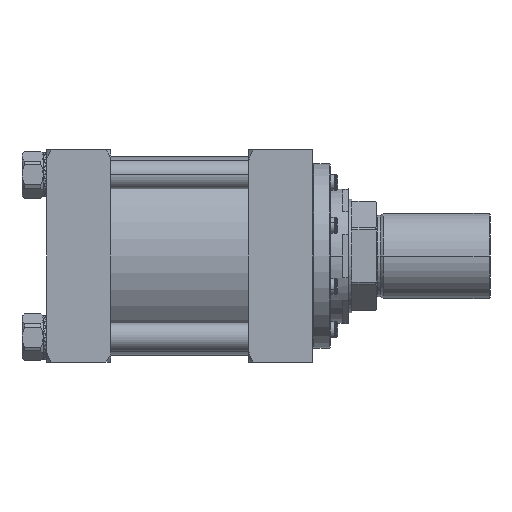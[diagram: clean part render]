
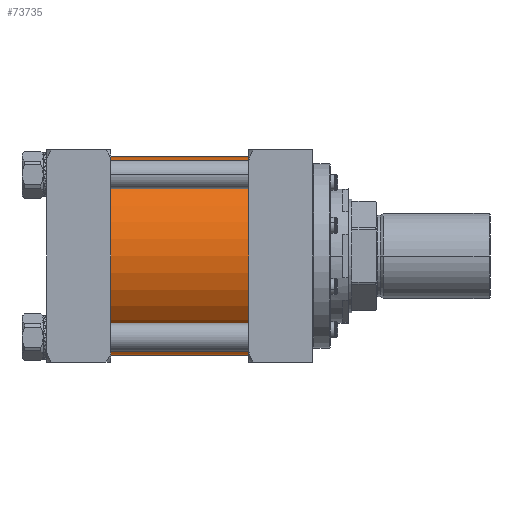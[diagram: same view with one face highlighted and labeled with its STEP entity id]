
A CAD part, front view. The second image highlights one B-rep face of the part: STEP entity #73735.
In plain terms, the highlighted cylindrical face has radius 88.9 mm (diameter 177.8 mm), a partial arc.
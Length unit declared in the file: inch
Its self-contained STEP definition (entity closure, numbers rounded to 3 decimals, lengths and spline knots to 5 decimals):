
#511 = AXIS2_PLACEMENT_3D ( 'NONE', #65451, #26432, #33102 ) ;
#1628 = AXIS2_PLACEMENT_3D ( 'NONE', #71839, #34941, #3389 ) ;
#3389 = DIRECTION ( 'NONE',  ( 0., 1., 0. ) ) ;
#4115 = CARTESIAN_POINT ( 'NONE',  ( -9.625, 0., 3.5 ) ) ;
#4490 = EDGE_LOOP ( 'NONE', ( #22146, #79472, #47394, #20850 ) ) ;
#6949 = CYLINDRICAL_SURFACE ( 'NONE', #511, 3.5 ) ;
#8220 = CIRCLE ( 'NONE', #1628, 3.5 ) ;
#11575 = AXIS2_PLACEMENT_3D ( 'NONE', #78219, #40114, #60746 ) ;
#14469 = VERTEX_POINT ( 'NONE', #62896 ) ;
#16992 = EDGE_CURVE ( 'NONE', #34417, #68497, #39198, .T. ) ;
#18238 = DIRECTION ( 'NONE',  ( 1., 0., 0. ) ) ;
#20850 = ORIENTED_EDGE ( 'NONE', *, *, #46636, .F. ) ;
#22146 = ORIENTED_EDGE ( 'NONE', *, *, #32626, .F. ) ;
#26432 = DIRECTION ( 'NONE',  ( 1., 0., 0. ) ) ;
#32626 = EDGE_CURVE ( 'NONE', #80930, #14469, #49326, .T. ) ;
#33102 = DIRECTION ( 'NONE',  ( 0., 0., -1. ) ) ;
#34417 = VERTEX_POINT ( 'NONE', #35814 ) ;
#34941 = DIRECTION ( 'NONE',  ( 1., 0., 0. ) ) ;
#35814 = CARTESIAN_POINT ( 'NONE',  ( -9.625, 0., -3.5 ) ) ;
#39198 = LINE ( 'NONE', #64471, #53535 ) ;
#40114 = DIRECTION ( 'NONE',  ( 1., 0., 0. ) ) ;
#46636 = EDGE_CURVE ( 'NONE', #14469, #68497, #8220, .T. ) ;
#47394 = ORIENTED_EDGE ( 'NONE', *, *, #16992, .T. ) ;
#47535 = VECTOR ( 'NONE', #18238, 39.37008 ) ;
#49326 = LINE ( 'NONE', #75073, #47535 ) ;
#53535 = VECTOR ( 'NONE', #71107, 39.37008 ) ;
#55328 = CIRCLE ( 'NONE', #11575, 3.5 ) ;
#57960 = FACE_OUTER_BOUND ( 'NONE', #4490, .T. ) ;
#58343 = EDGE_CURVE ( 'NONE', #80930, #34417, #55328, .T. ) ;
#60746 = DIRECTION ( 'NONE',  ( 0., 1., 0. ) ) ;
#62896 = CARTESIAN_POINT ( 'NONE',  ( -4.25, 0., 3.5 ) ) ;
#64471 = CARTESIAN_POINT ( 'NONE',  ( -9.625, 0., -3.5 ) ) ;
#65451 = CARTESIAN_POINT ( 'NONE',  ( -9.625, 0., 0. ) ) ;
#68497 = VERTEX_POINT ( 'NONE', #79659 ) ;
#71107 = DIRECTION ( 'NONE',  ( 1., 0., 0. ) ) ;
#71839 = CARTESIAN_POINT ( 'NONE',  ( -4.25, 0., 0. ) ) ;
#73735 = ADVANCED_FACE ( 'NONE', ( #57960 ), #6949, .T. ) ;
#75073 = CARTESIAN_POINT ( 'NONE',  ( -9.625, 0., 3.5 ) ) ;
#78219 = CARTESIAN_POINT ( 'NONE',  ( -9.625, 0., 0. ) ) ;
#79472 = ORIENTED_EDGE ( 'NONE', *, *, #58343, .T. ) ;
#79659 = CARTESIAN_POINT ( 'NONE',  ( -4.25, 0., -3.5 ) ) ;
#80930 = VERTEX_POINT ( 'NONE', #4115 ) ;
